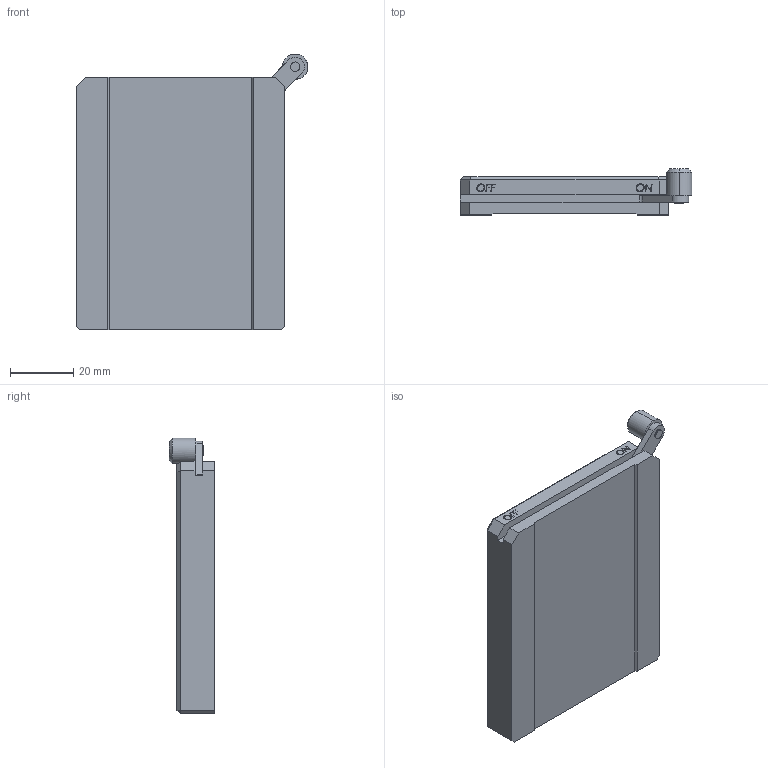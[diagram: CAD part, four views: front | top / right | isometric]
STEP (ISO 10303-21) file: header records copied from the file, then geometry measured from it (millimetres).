
FILE_DESCRIPTION (( 'STEP AP203' ), '1' );
FILE_NAME ('MMT66.STEP', '2008-07-17T07:45:56', ( '陳志豪' ), ( '高明鐵企業股份有限公司' ), 'SwSTEP 2.0', 'SolidWorks 2007', '' );
FILE_SCHEMA (( 'CONFIG_CONTROL_DESIGN' ));
Length unit declared in the file: millimetre
Products named in the file (1): MMT66
Bounding box: 73.3 x 14.5 x 87.3 mm (x, y, z)
Volume: 60835.4 mm3; surface area: 15302.3 mm2
Topology: 1 solids, 1 shells, 458 faces, 1218 edges, 790 vertices
Faces by surface type: plane 266, bspline 99, cylinder 71, cone 22
Entity records: 19357 total; most frequent: CARTESIAN_POINT 8538, ORIENTED_EDGE 2396, DIRECTION 1868, EDGE_CURVE 1198, VECTOR 852, LINE 852, VERTEX_POINT 790, AXIS2_PLACEMENT_3D 508
